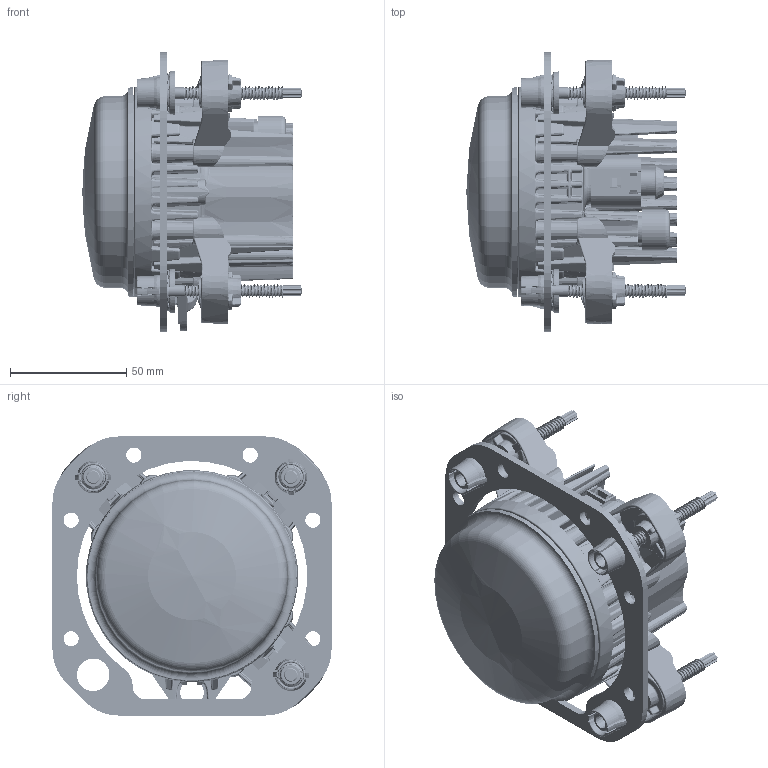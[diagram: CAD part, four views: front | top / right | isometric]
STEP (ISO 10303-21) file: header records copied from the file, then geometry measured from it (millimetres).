
FILE_DESCRIPTION(('CATIA V5 STEP Exchange','CAx-IF Rec.Pracs.--- Model Styling and Organization---1.5--- 2016-08-15','CAx-IF Rec.Pracs.---Supplemental Geometry---1.0---2011-11-01','CAx-IF Rec.Pracs.--- Composite Materials ---1.1---2010-07-15'),'2;1');
FILE_NAME('E:\tmp\ddx\2011204\3D_data_LED_high_beam_headlamp_L4060_without_frame_1F0 011 988-12.stp','2022-01-18T07:33:30+00:00',('none'),('none'),'CATIA Version 5-6 Release 2020 SP3 HF9','CATIA V5 STEP AP214 Edition 3 v2','none');
FILE_SCHEMA(('AUTOMOTIVE_DESIGN { 1 0 10303 214 3 1 1 1 }'));
Length unit declared in the file: millimetre
Products named in the file (1): 10000989732_D10_001
Bounding box: 94.34 x 120 x 120 mm (x, y, z)
Volume: 269560.2 mm3; surface area: 183311.3 mm2
Topology: 34 solids, 34 shells, 10533 faces, 25937 edges, 14190 vertices
Faces by surface type: bspline 5698, cylinder 1185, plane 1155, torus 1018, cone 867, sphere 367, extrusion 195, revolution 48
Entity records: 566937 total; most frequent: CARTESIAN_POINT 386453, ORIENTED_EDGE 49236, EDGE_CURVE 24618, B_SPLINE_CURVE_WITH_KNOTS 16832, DIRECTION 15069, VERTEX_POINT 14189, EDGE_LOOP 10731, ADVANCED_FACE 10533
